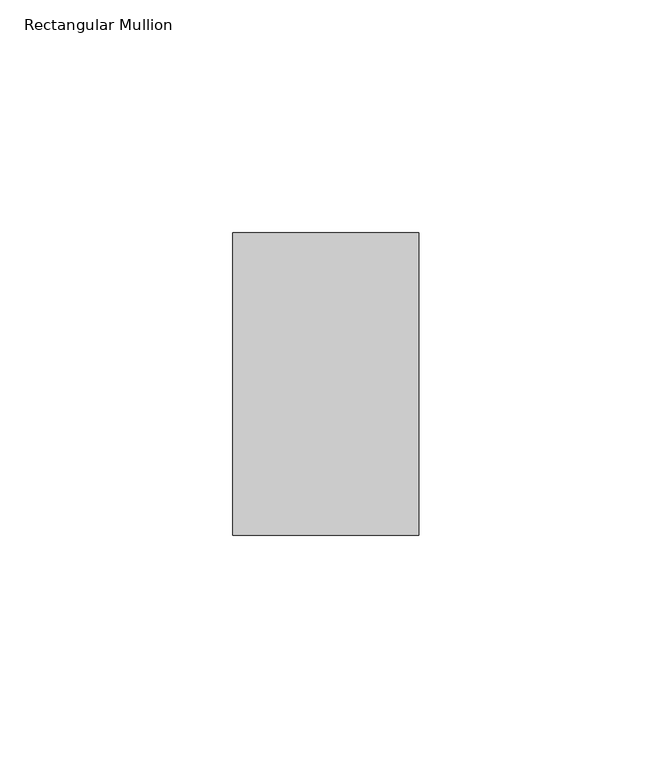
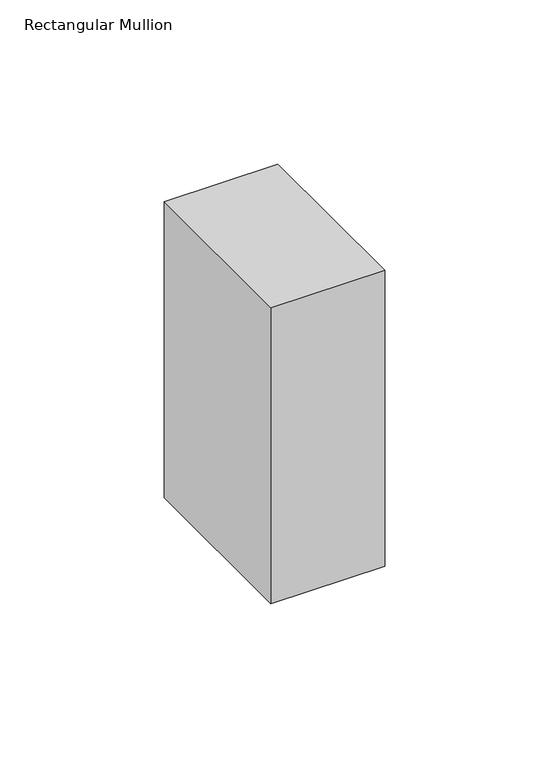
"""IFC4 building model written with IfcOpenShell, lengths in millimetres: member geometry, Rectangular Mullion : Batten_Timber_Modinex_Austratus_Grid_Fascia_40x65_AlaskanYellowCedar."""

from ifc_helpers import new_model, si_unit, frame, origin, place, context, project, spatial, polyline, outline, extrude, source, transform, mapped, element, save


def rectangular_mullion_581565bb(model_context):
    return source(origin(), model_context, "Body", "SweptSolid", [
        extrude(outline(polyline([(-40.0, 65.0), (0.0, 65.0), (0.0, 0.0), (-40.0, 0.0), (-40.0, 65.0)])), frame((0.0, 0.0, -110.0), z_axis=(0.0, 0.0, 1.0), x_axis=(1.0, 0.0, 0.0)), (0.0, 0.0, 1.0), 110.0),
    ])


if __name__ == "__main__":
    model = new_model("IFC4")
    model_context = context("Model", 3, world=origin())
    ifc_project = project(units=[si_unit("LENGTHUNIT", "METRE", prefix="MILLI")], contexts=[model_context])
    site = spatial("IfcSite", under=ifc_project)
    building = spatial("IfcBuilding", under=site)
    placement = place(None, origin())
    rectangular_mullion_shape = rectangular_mullion_581565bb(model_context)
    element("IfcMember", 1, ObjectType="Rectangular Mullion : Batten_Timber_Modinex_Austratus_Grid_Fascia_40x65_AlaskanYellowCedar", at=placement, inside=building, context=model_context, shape_type="MappedRepresentation", body=[
        mapped(rectangular_mullion_shape, transform((0.0, 0.0, 0.0), x_axis=(1.0, 0.0, 0.0), y_axis=(0.0, 1.0, 0.0), z_axis=(0.0, 0.0, 1.0))),
    ])
    save(model, "model.ifc")
